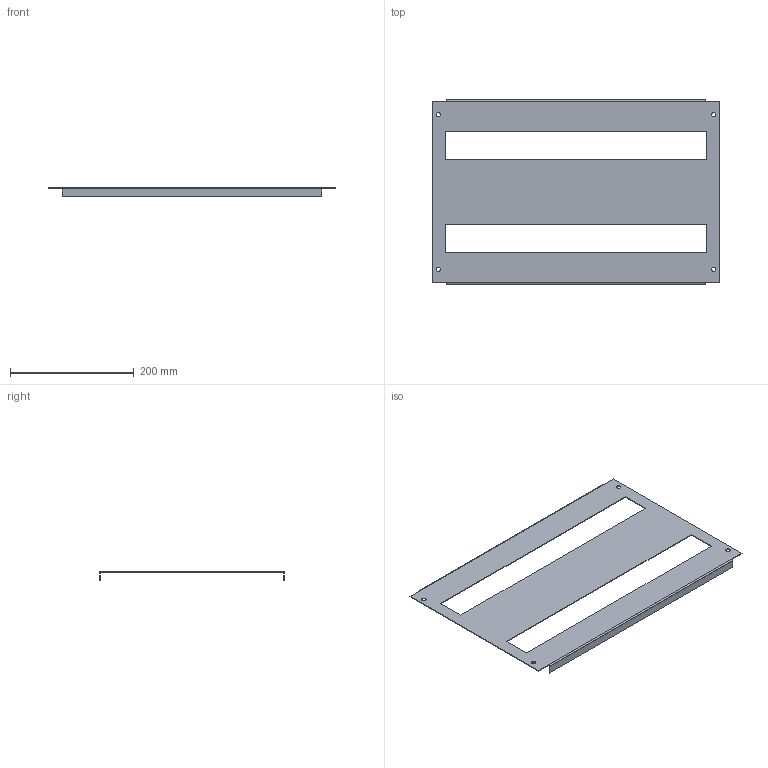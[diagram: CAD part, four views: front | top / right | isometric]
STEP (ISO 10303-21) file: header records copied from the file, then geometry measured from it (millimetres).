
FILE_DESCRIPTION (( 'STEP AP203' ), '1' );
FILE_NAME ('MB 30.50 P Ïàíåëü ìîäóëüíàÿ.STEP', '2012-11-21T07:12:42', ( 'system' ), ( '' ), 'SwSTEP 2.0', 'SolidWorks 2012', '' );
FILE_SCHEMA (( 'CONFIG_CONTROL_DESIGN' ));
Length unit declared in the file: millimetre
Products named in the file (1): MB 30.50 P Ïàíåëü ìîäóëüíàÿ
Bounding box: 465 x 299 x 15 mm (x, y, z)
Volume: 132793.5 mm3; surface area: 225575.4 mm2
Topology: 1 solids, 1 shells, 42 faces, 104 edges, 64 vertices
Faces by surface type: plane 30, cylinder 12
Entity records: 1325 total; most frequent: DIRECTION 214, CARTESIAN_POINT 211, ORIENTED_EDGE 208, EDGE_CURVE 104, VECTOR 80, LINE 80, AXIS2_PLACEMENT_3D 67, VERTEX_POINT 64
